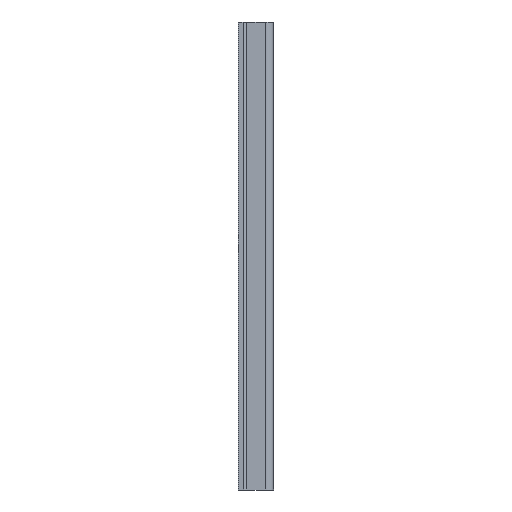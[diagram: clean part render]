
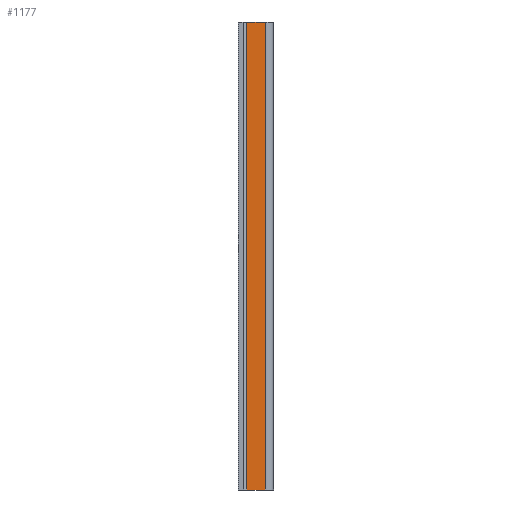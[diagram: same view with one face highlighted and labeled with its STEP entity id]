
A CAD part, left-side view. The second image highlights one B-rep face of the part: STEP entity #1177.
In plain terms, the highlighted planar face has unit normal (-1, 0, 0).
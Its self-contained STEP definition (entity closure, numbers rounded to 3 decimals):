
#25 = LINE ( 'NONE', #71, #1890 ) ;
#34 = DIRECTION ( 'NONE',  ( 0., 0., -1. ) ) ;
#64 = CARTESIAN_POINT ( 'NONE',  ( -13.5, 5.7, 0. ) ) ;
#67 = EDGE_CURVE ( 'NONE', #1375, #107, #247, .T. ) ;
#71 = CARTESIAN_POINT ( 'NONE',  ( -13.5, 1.8, 0. ) ) ;
#77 = DIRECTION ( 'NONE',  ( 0., 1., 0. ) ) ;
#107 = VERTEX_POINT ( 'NONE', #198 ) ;
#198 = CARTESIAN_POINT ( 'NONE',  ( -13.5, 1.8, 0. ) ) ;
#247 = LINE ( 'NONE', #789, #1433 ) ;
#259 = VERTEX_POINT ( 'NONE', #1281 ) ;
#265 = ORIENTED_EDGE ( 'NONE', *, *, #803, .F. ) ;
#477 = ORIENTED_EDGE ( 'NONE', *, *, #2404, .F. ) ;
#698 = EDGE_LOOP ( 'NONE', ( #265, #1172, #1593, #477 ) ) ;
#789 = CARTESIAN_POINT ( 'NONE',  ( -13.5, 2.593, 0. ) ) ;
#803 = EDGE_CURVE ( 'NONE', #1375, #1855, #1578, .T. ) ;
#1148 = FACE_OUTER_BOUND ( 'NONE', #698, .T. ) ;
#1172 = ORIENTED_EDGE ( 'NONE', *, *, #67, .T. ) ;
#1177 = ADVANCED_FACE ( 'NONE', ( #1148 ), #2417, .F. ) ;
#1238 = DIRECTION ( 'NONE',  ( 1., 0., 0. ) ) ;
#1269 = CARTESIAN_POINT ( 'NONE',  ( -13.5, 5.7, 0. ) ) ;
#1281 = CARTESIAN_POINT ( 'NONE',  ( -13.5, 1.8, 100. ) ) ;
#1360 = DIRECTION ( 'NONE',  ( 0., -1., 0. ) ) ;
#1375 = VERTEX_POINT ( 'NONE', #64 ) ;
#1381 = DIRECTION ( 'NONE',  ( 0., -1., 0. ) ) ;
#1427 = CARTESIAN_POINT ( 'NONE',  ( -13.5, 5.7, 0. ) ) ;
#1433 = VECTOR ( 'NONE', #1360, 1000. ) ;
#1566 = LINE ( 'NONE', #1567, #2318 ) ;
#1567 = CARTESIAN_POINT ( 'NONE',  ( -13.5, 2.593, 100. ) ) ;
#1578 = LINE ( 'NONE', #1427, #2026 ) ;
#1593 = ORIENTED_EDGE ( 'NONE', *, *, #2188, .F. ) ;
#1855 = VERTEX_POINT ( 'NONE', #2266 ) ;
#1890 = VECTOR ( 'NONE', #34, 1000. ) ;
#1934 = AXIS2_PLACEMENT_3D ( 'NONE', #1269, #1238, #77 ) ;
#2026 = VECTOR ( 'NONE', #2450, 1000. ) ;
#2188 = EDGE_CURVE ( 'NONE', #259, #107, #25, .T. ) ;
#2266 = CARTESIAN_POINT ( 'NONE',  ( -13.5, 5.7, 100. ) ) ;
#2318 = VECTOR ( 'NONE', #1381, 1000. ) ;
#2404 = EDGE_CURVE ( 'NONE', #1855, #259, #1566, .T. ) ;
#2417 = PLANE ( 'NONE',  #1934 ) ;
#2450 = DIRECTION ( 'NONE',  ( 0., 0., 1. ) ) ;
